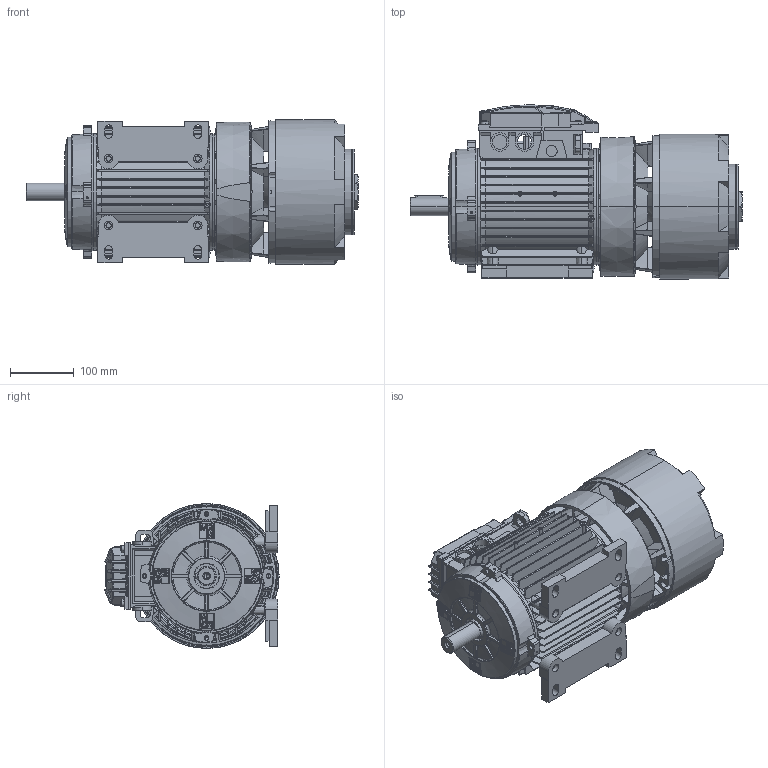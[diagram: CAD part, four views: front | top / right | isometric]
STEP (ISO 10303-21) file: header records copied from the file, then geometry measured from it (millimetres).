
FILE_DESCRIPTION (( 'STEP AP214' ), '1' );
FILE_NAME ('M08HA0011.STEP', '2024-05-30T08:05:44', ( '' ), ( '' ), 'SwSTEP 2.0', 'SolidWorks 2023', '' );
FILE_SCHEMA (( 'AUTOMOTIVE_DESIGN' ));
Length unit declared in the file: millimetre
Products named in the file (14): Scudo Lato Freno BA 112 P1 - DFAE0094; Convogliatore con pista di attrito P2 BAH 112; Tappo a testa Esagonale M40x1,5; Carcassa 112 B5 - DI; Albero BA 112; Coperchio 100-112 DI; Vite per coperchio morsettiera; Cuffia BAH 112 - DFEI0018; Scudo Lato Comando B3 BA-BM 112 - DFAD0194; Assieme coperchio scatola DI 100-112; Chiavetta 100-112; M08HA0011; Guarnizione Coperchio scatola 100-112 DI; Piede riportato 112 NCN
Assembly tree (17 placements, depth 3):
  M08HA0011
    Carcassa 112 B5 - DI
    Scudo Lato Comando B3 BA-BM 112 - DFAD0194
    Convogliatore con pista di attrito P2 BAH 112
    Scudo Lato Freno BA 112 P1 - DFAE0094
    Cuffia BAH 112 - DFEI0018
    Tappo a testa Esagonale M40x1,5
    Albero BA 112
    Chiavetta 100-112
    Assieme coperchio scatola DI 100-112
      Coperchio 100-112 DI
      Guarnizione Coperchio scatola 100-112 DI
      Vite per coperchio morsettiera  x4
    Piede riportato 112 NCN  x2
Bounding box: 522 x 273.69 x 227.5 mm (x, y, z)
Volume: 3427972.3 mm3; surface area: 1417261.7 mm2
Topology: 16 solids, 16 shells, 4290 faces, 11455 edges, 7236 vertices
Faces by surface type: plane 1613, bspline 901, cylinder 873, cone 509, torus 364, sphere 30
Entity records: 188868 total; most frequent: CARTESIAN_POINT 83545, ORIENTED_EDGE 21704, DIRECTION 16206, EDGE_CURVE 10852, VERTEX_POINT 6926, AXIS2_PLACEMENT_3D 5933, VECTOR 4340, LINE 4340
